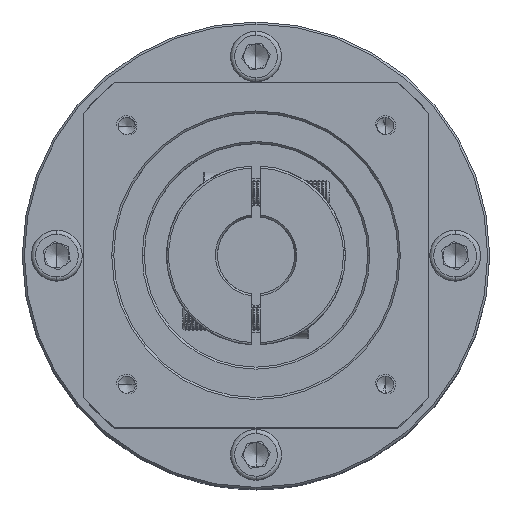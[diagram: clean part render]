
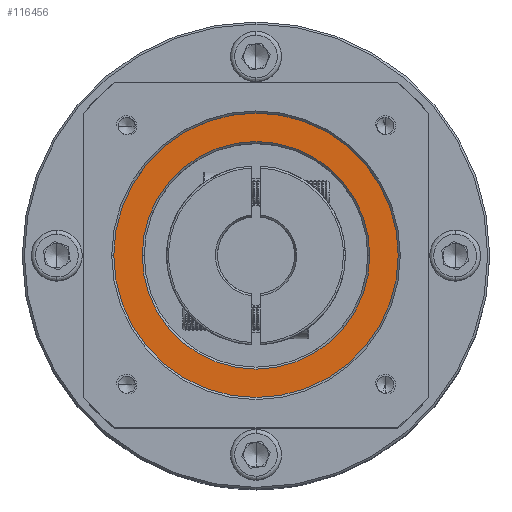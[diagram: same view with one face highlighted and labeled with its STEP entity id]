
A CAD part, top view. The second image highlights one B-rep face of the part: STEP entity #116456.
In plain terms, the highlighted planar face has unit normal (0, 0, 1).
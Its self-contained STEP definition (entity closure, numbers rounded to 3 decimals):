
#6644 = DIRECTION ( 'NONE',  ( 1., 0., 0. ) ) ;
#8079 = CIRCLE ( 'NONE', #88690, 28. ) ;
#13908 = PLANE ( 'NONE',  #17609 ) ;
#16776 = EDGE_CURVE ( 'NONE', #114910, #46319, #8079, .T. ) ;
#17609 = AXIS2_PLACEMENT_3D ( 'NONE', #33678, #34102, #25229 ) ;
#19024 = ORIENTED_EDGE ( 'NONE', *, *, #16776, .T. ) ;
#19676 = CARTESIAN_POINT ( 'NONE',  ( 124.218, -32.429, 38.936 ) ) ;
#23343 = VERTEX_POINT ( 'NONE', #76791 ) ;
#25039 = CIRCLE ( 'NONE', #121018, 35. ) ;
#25229 = DIRECTION ( 'NONE',  ( 1., 0., 0. ) ) ;
#26837 = DIRECTION ( 'NONE',  ( 0., 0., -1. ) ) ;
#27010 = CIRCLE ( 'NONE', #70973, 28. ) ;
#29787 = EDGE_CURVE ( 'NONE', #46319, #114910, #27010, .T. ) ;
#33678 = CARTESIAN_POINT ( 'NONE',  ( 96.218, -32.429, 38.936 ) ) ;
#34102 = DIRECTION ( 'NONE',  ( 0., 0., 1. ) ) ;
#35857 = CIRCLE ( 'NONE', #88461, 35. ) ;
#36538 = DIRECTION ( 'NONE',  ( 1., 0., 0. ) ) ;
#37250 = CARTESIAN_POINT ( 'NONE',  ( 96.218, -32.429, 38.936 ) ) ;
#37830 = CARTESIAN_POINT ( 'NONE',  ( 96.218, -32.429, 38.936 ) ) ;
#39710 = EDGE_CURVE ( 'NONE', #23343, #95440, #35857, .T. ) ;
#46319 = VERTEX_POINT ( 'NONE', #66678 ) ;
#50519 = DIRECTION ( 'NONE',  ( 1., 0., 0. ) ) ;
#59785 = CARTESIAN_POINT ( 'NONE',  ( 96.218, -32.429, 38.936 ) ) ;
#61263 = ORIENTED_EDGE ( 'NONE', *, *, #39710, .T. ) ;
#66397 = DIRECTION ( 'NONE',  ( 0., 0., 1. ) ) ;
#66678 = CARTESIAN_POINT ( 'NONE',  ( 68.218, -32.429, 38.936 ) ) ;
#70973 = AXIS2_PLACEMENT_3D ( 'NONE', #74505, #26837, #6644 ) ;
#74505 = CARTESIAN_POINT ( 'NONE',  ( 96.218, -32.429, 38.936 ) ) ;
#74591 = CARTESIAN_POINT ( 'NONE',  ( 61.218, -32.429, 38.936 ) ) ;
#76791 = CARTESIAN_POINT ( 'NONE',  ( 131.218, -32.429, 38.936 ) ) ;
#77891 = DIRECTION ( 'NONE',  ( 0., 0., 1. ) ) ;
#78271 = EDGE_CURVE ( 'NONE', #95440, #23343, #25039, .T. ) ;
#80665 = EDGE_LOOP ( 'NONE', ( #61263, #108932 ) ) ;
#81917 = EDGE_LOOP ( 'NONE', ( #19024, #97473 ) ) ;
#88461 = AXIS2_PLACEMENT_3D ( 'NONE', #37250, #66397, #106217 ) ;
#88513 = FACE_BOUND ( 'NONE', #81917, .T. ) ;
#88690 = AXIS2_PLACEMENT_3D ( 'NONE', #37830, #124832, #36538 ) ;
#95440 = VERTEX_POINT ( 'NONE', #74591 ) ;
#95964 = FACE_OUTER_BOUND ( 'NONE', #80665, .T. ) ;
#97473 = ORIENTED_EDGE ( 'NONE', *, *, #29787, .T. ) ;
#106217 = DIRECTION ( 'NONE',  ( 1., 0., 0. ) ) ;
#108932 = ORIENTED_EDGE ( 'NONE', *, *, #78271, .T. ) ;
#114910 = VERTEX_POINT ( 'NONE', #19676 ) ;
#116456 = ADVANCED_FACE ( 'NONE', ( #95964, #88513 ), #13908, .T. ) ;
#121018 = AXIS2_PLACEMENT_3D ( 'NONE', #59785, #77891, #50519 ) ;
#124832 = DIRECTION ( 'NONE',  ( 0., 0., -1. ) ) ;
